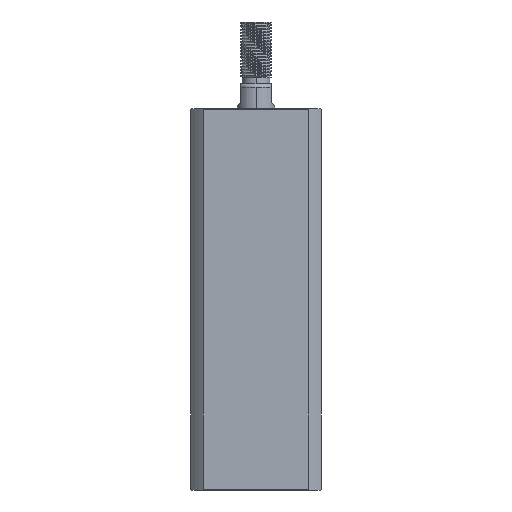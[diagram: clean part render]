
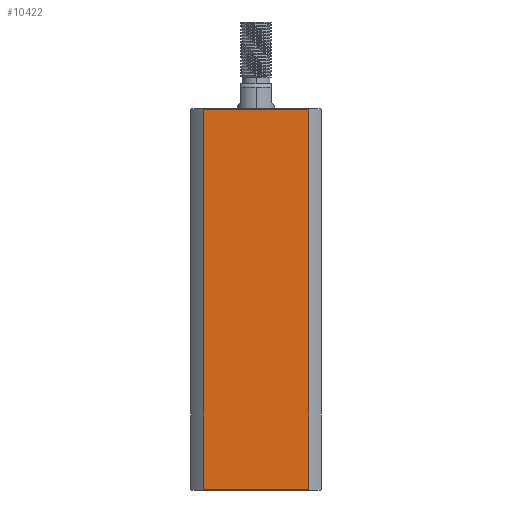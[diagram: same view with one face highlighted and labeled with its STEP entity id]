
A CAD part, left-side view. The second image highlights one B-rep face of the part: STEP entity #10422.
In plain terms, the highlighted planar face has unit normal (-1, 0, 0).
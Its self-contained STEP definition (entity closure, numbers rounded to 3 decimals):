
#1535 = LINE ( 'NONE', #7844, #10323 ) ;
#3324 = LINE ( 'NONE', #14318, #9390 ) ;
#3556 = ORIENTED_EDGE ( 'NONE', *, *, #6990, .T. ) ;
#4165 = EDGE_CURVE ( 'NONE', #5816, #8619, #3324, .T. ) ;
#4827 = EDGE_CURVE ( 'NONE', #12895, #10528, #5850, .T. ) ;
#4839 = CARTESIAN_POINT ( 'NONE',  ( -21., 16.971, -27. ) ) ;
#5113 = DIRECTION ( 'NONE',  ( 0., 1., 0. ) ) ;
#5224 = CARTESIAN_POINT ( 'NONE',  ( -21., 16.971, 122.7 ) ) ;
#5406 = EDGE_CURVE ( 'NONE', #12895, #8619, #1535, .T. ) ;
#5816 = VERTEX_POINT ( 'NONE', #9590 ) ;
#5850 = LINE ( 'NONE', #4839, #13993 ) ;
#6710 = VECTOR ( 'NONE', #13893, 1000. ) ;
#6990 = EDGE_CURVE ( 'NONE', #5816, #10528, #7043, .T. ) ;
#7043 = LINE ( 'NONE', #11543, #6710 ) ;
#7125 = DIRECTION ( 'NONE',  ( 0., 0., 1. ) ) ;
#7359 = DIRECTION ( 'NONE',  ( 0., 0., -1. ) ) ;
#7713 = CARTESIAN_POINT ( 'NONE',  ( -21., 16.971, 0.3 ) ) ;
#7757 = FACE_OUTER_BOUND ( 'NONE', #9388, .T. ) ;
#7844 = CARTESIAN_POINT ( 'NONE',  ( -21., 21., 0.3 ) ) ;
#8619 = VERTEX_POINT ( 'NONE', #11356 ) ;
#9388 = EDGE_LOOP ( 'NONE', ( #13904, #10033, #9700, #3556 ) ) ;
#9390 = VECTOR ( 'NONE', #7359, 1000. ) ;
#9590 = CARTESIAN_POINT ( 'NONE',  ( -21., -16.971, 122.7 ) ) ;
#9700 = ORIENTED_EDGE ( 'NONE', *, *, #4165, .F. ) ;
#10033 = ORIENTED_EDGE ( 'NONE', *, *, #5406, .T. ) ;
#10323 = VECTOR ( 'NONE', #14793, 1000. ) ;
#10422 = ADVANCED_FACE ( 'NONE', ( #7757 ), #10841, .F. ) ;
#10528 = VERTEX_POINT ( 'NONE', #5224 ) ;
#10841 = PLANE ( 'NONE',  #14756 ) ;
#11356 = CARTESIAN_POINT ( 'NONE',  ( -21., -16.971, 0.3 ) ) ;
#11543 = CARTESIAN_POINT ( 'NONE',  ( -21., 21., 122.7 ) ) ;
#12017 = DIRECTION ( 'NONE',  ( 1., 0., 0. ) ) ;
#12895 = VERTEX_POINT ( 'NONE', #7713 ) ;
#13893 = DIRECTION ( 'NONE',  ( 0., 1., 0. ) ) ;
#13904 = ORIENTED_EDGE ( 'NONE', *, *, #4827, .F. ) ;
#13993 = VECTOR ( 'NONE', #7125, 1000. ) ;
#14316 = CARTESIAN_POINT ( 'NONE',  ( -21., 21., 123. ) ) ;
#14318 = CARTESIAN_POINT ( 'NONE',  ( -21., -16.971, -27. ) ) ;
#14756 = AXIS2_PLACEMENT_3D ( 'NONE', #14316, #12017, #5113 ) ;
#14793 = DIRECTION ( 'NONE',  ( 0., -1., 0. ) ) ;
